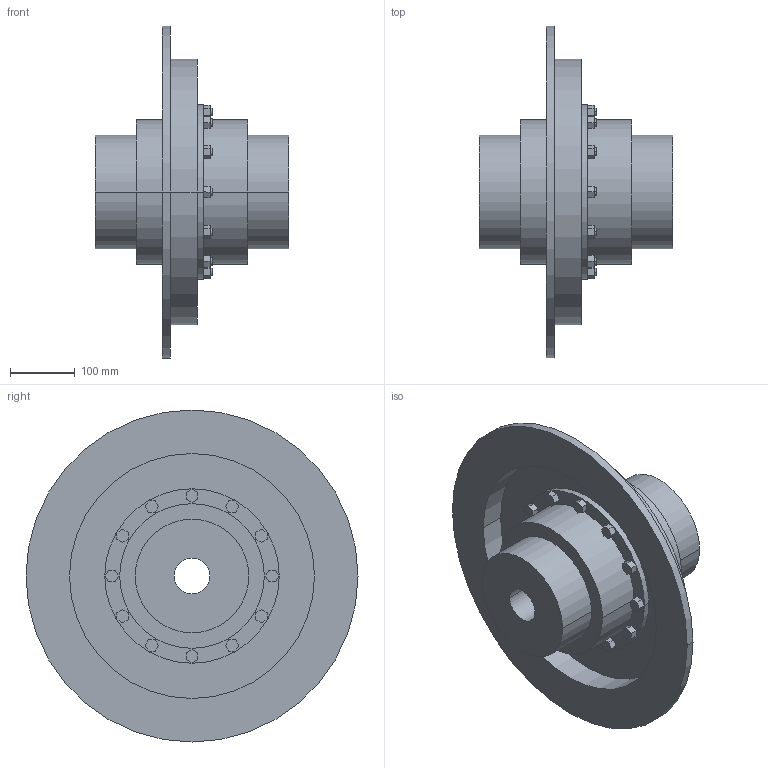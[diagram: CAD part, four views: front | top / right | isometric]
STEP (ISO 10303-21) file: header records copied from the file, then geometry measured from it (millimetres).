
FILE_DESCRIPTION((''),'2;1');
FILE_NAME('A19126400-0_ASM','2018-11-13T',('AB_Roschiwal'),('RENK AG'),'PRO/ENGINEER BY PARAMETRIC TECHNOLOGY CORPORATION, 2015440','PRO/ENGINEER BY PARAMETRIC TECHNOLOGY CORPORATION, 2015440','');
FILE_SCHEMA(('CONFIG_CONTROL_DESIGN'));
Length unit declared in the file: millimetre
Products named in the file (4): LBKT110_GEHAEUSE; LBKT110_NABE; LBKT110_BREMSSCHEIBE; A19126400-0_ASM
Assembly tree (4 placements, depth 2):
  A19126400-0_ASM
    LBKT110_GEHAEUSE
    LBKT110_NABE  x2
    LBKT110_BREMSSCHEIBE
Bounding box: 300 x 514 x 514 mm (x, y, z)
Volume: 11681329.3 mm3; surface area: 1158455 mm2
Topology: 4 solids, 4 shells, 294 faces, 708 edges, 472 vertices
Faces by surface type: plane 202, cylinder 92
Entity records: 8412 total; most frequent: DIRECTION 1432, CARTESIAN_POINT 1430, ORIENTED_EDGE 1368, EDGE_CURVE 684, VECTOR 516, LINE 516, AXIS2_PLACEMENT_3D 458, VERTEX_POINT 456
